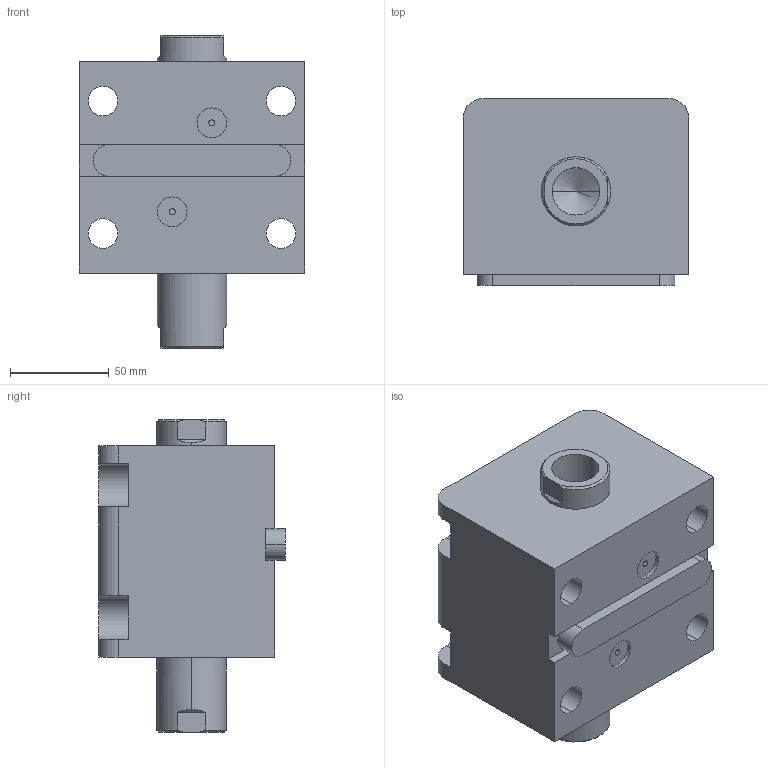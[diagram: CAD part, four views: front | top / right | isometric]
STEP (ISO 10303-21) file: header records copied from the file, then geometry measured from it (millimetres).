
FILE_DESCRIPTION (( 'STEP AP203' ), '1' );
FILE_NAME ('HTB-LWM63-25N.STEP', '2020-12-25T03:39:11', ( '微软用户' ), ( '微软中国' ), 'SwSTEP 2.0', 'SolidWorks 2012', '' );
FILE_SCHEMA (( 'CONFIG_CONTROL_DESIGN' ));
Length unit declared in the file: millimetre
Products named in the file (4): HTB-LWM63-25掛极; HTB-LWM63-25N活塞杆; HTB-LWM63-瑩; HTB-LWM63-25N
Assembly tree (3 placements, depth 2):
  HTB-LWM63-25N
    HTB-LWM63-25掛极
    HTB-LWM63-25N活塞杆
    HTB-LWM63-瑩
Bounding box: 114 x 94.5 x 158 mm (x, y, z)
Volume: 968658.9 mm3; surface area: 132955.1 mm2
Topology: 3 solids, 3 shells, 105 faces, 261 edges, 168 vertices
Faces by surface type: cylinder 45, plane 44, torus 8, cone 8
Entity records: 3571 total; most frequent: CARTESIAN_POINT 592, DIRECTION 573, ORIENTED_EDGE 514, EDGE_CURVE 257, AXIS2_PLACEMENT_3D 221, VERTEX_POINT 168, LINE 131, VECTOR 131
